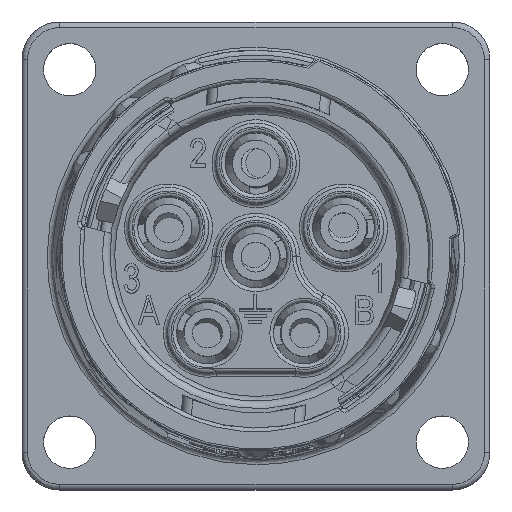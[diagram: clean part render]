
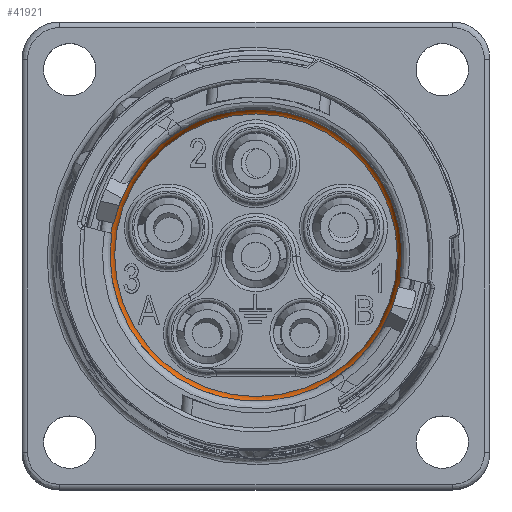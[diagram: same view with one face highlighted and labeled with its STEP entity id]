
A CAD part, top view. The second image highlights one B-rep face of the part: STEP entity #41921.
In plain terms, the highlighted toroidal (fillet/blend) face has major radius 9.08 mm and minor radius 1.53 mm.
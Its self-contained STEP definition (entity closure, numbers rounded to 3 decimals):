
#10492 = TOROIDAL_SURFACE ( 'NONE', #61209, 9.08, 1.53 ) ;
#11125 = VERTEX_POINT ( 'NONE', #40376 ) ;
#11637 = CIRCLE ( 'NONE', #15183, 7.856 ) ;
#12269 = ORIENTED_EDGE ( 'NONE', *, *, #48815, .T. ) ;
#12735 = EDGE_LOOP ( 'NONE', ( #34269 ) ) ;
#15183 = AXIS2_PLACEMENT_3D ( 'NONE', #27673, #70647, #37414 ) ;
#23724 = DIRECTION ( 'NONE',  ( -0.172, 0.985, 0. ) ) ;
#27673 = CARTESIAN_POINT ( 'NONE',  ( 25.781, 20.153, 31.779 ) ) ;
#28560 = CARTESIAN_POINT ( 'NONE',  ( 25.781, 20.153, 29.943 ) ) ;
#32228 = AXIS2_PLACEMENT_3D ( 'NONE', #28560, #57714, #23724 ) ;
#34269 = ORIENTED_EDGE ( 'NONE', *, *, #41748, .F. ) ;
#37414 = DIRECTION ( 'NONE',  ( -0.172, 0.985, 0. ) ) ;
#40376 = CARTESIAN_POINT ( 'NONE',  ( 24.427, 27.891, 31.779 ) ) ;
#40918 = FACE_OUTER_BOUND ( 'NONE', #69493, .T. ) ;
#41285 = DIRECTION ( 'NONE',  ( 0., 0., -1. ) ) ;
#41748 = EDGE_CURVE ( 'NONE', #11125, #11125, #11637, .T. ) ;
#41921 = ADVANCED_FACE ( 'NONE', ( #40918, #46812 ), #10492, .T. ) ;
#45254 = CIRCLE ( 'NONE', #32228, 7.856 ) ;
#46812 = FACE_OUTER_BOUND ( 'NONE', #12735, .T. ) ;
#47177 = CARTESIAN_POINT ( 'NONE',  ( 25.781, 20.153, 30.861 ) ) ;
#48815 = EDGE_CURVE ( 'NONE', #71689, #71689, #45254, .T. ) ;
#57714 = DIRECTION ( 'NONE',  ( 0., 0., -1. ) ) ;
#58655 = CARTESIAN_POINT ( 'NONE',  ( 24.427, 27.891, 29.943 ) ) ;
#61209 = AXIS2_PLACEMENT_3D ( 'NONE', #47177, #41285, #63794 ) ;
#63794 = DIRECTION ( 'NONE',  ( -0.172, 0.985, 0. ) ) ;
#69493 = EDGE_LOOP ( 'NONE', ( #12269 ) ) ;
#70647 = DIRECTION ( 'NONE',  ( 0., 0., -1. ) ) ;
#71689 = VERTEX_POINT ( 'NONE', #58655 ) ;
